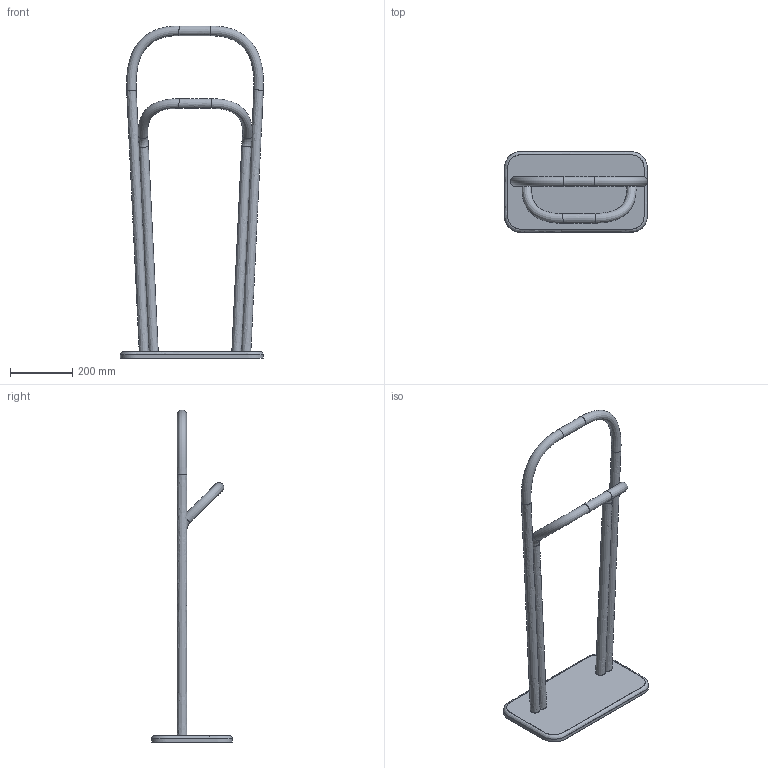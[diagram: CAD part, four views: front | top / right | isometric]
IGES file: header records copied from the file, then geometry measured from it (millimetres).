
Global section: file name: \\192.168.4.99\ufficio_tecnico\02 - PRODOTTI IN PRODUZIONE\ARCH CLOTHES VALET\03 - DISEGNI 3D\3D X SITO\ARCH CLOTHES VALET.igs; native system: Rhinoceros ( May 22 2017 ); preprocessor: Trout Lake IGES 012 May 22 2017; date: 190520.150519; units: millimetre
Bounding box: 460.99 x 260 x 1070.14 mm (x, y, z)
Surface area: 677969.7 mm2 (no closed solid volume)
Topology: 0 solids, 0 shells, 22 faces, 194 edges, 174 vertices
Faces by surface type: bspline 22
